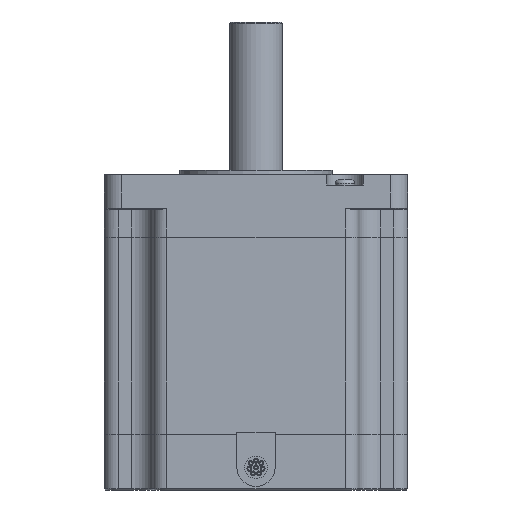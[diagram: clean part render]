
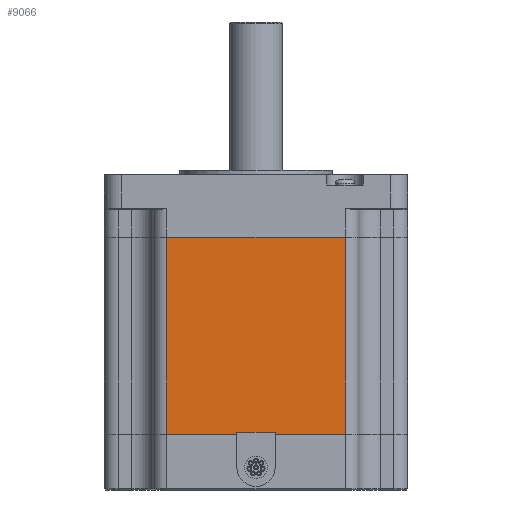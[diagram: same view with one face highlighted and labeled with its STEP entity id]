
A CAD part, front view. The second image highlights one B-rep face of the part: STEP entity #9066.
In plain terms, the highlighted planar face has unit normal (0, -1, 0).
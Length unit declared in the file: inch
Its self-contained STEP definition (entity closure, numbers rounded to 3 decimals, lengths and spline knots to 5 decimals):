
#561 = VERTEX_POINT ( 'NONE', #1770 ) ;
#565 = EDGE_CURVE ( 'NONE', #561, #587, #1817, .T. ) ;
#587 = VERTEX_POINT ( 'NONE', #1842 ) ;
#1770 = CARTESIAN_POINT ( 'NONE',  ( 1.2775, -2.1765, -0.9 ) ) ;
#1814 = DIRECTION ( 'NONE',  ( -1., 0., 0. ) ) ;
#1815 = VECTOR ( 'NONE', #1814, 39.37008 ) ;
#1816 = CARTESIAN_POINT ( 'NONE',  ( 1.2775, -2.1765, -0.9 ) ) ;
#1817 = LINE ( 'NONE', #1816, #1815 ) ;
#1842 = CARTESIAN_POINT ( 'NONE',  ( -1.2775, -2.1765, -0.9 ) ) ;
#9017 = EDGE_LOOP ( 'NONE', ( #9029, #9047, #9073, #9062 ) ) ;
#9018 = VERTEX_POINT ( 'NONE', #13118 ) ;
#9026 = EDGE_CURVE ( 'NONE', #9018, #9081, #13134, .T. ) ;
#9029 = ORIENTED_EDGE ( 'NONE', *, *, #565, .T. ) ;
#9040 = EDGE_CURVE ( 'NONE', #9018, #561, #13194, .T. ) ;
#9047 = ORIENTED_EDGE ( 'NONE', *, *, #9063, .F. ) ;
#9062 = ORIENTED_EDGE ( 'NONE', *, *, #9040, .T. ) ;
#9063 = EDGE_CURVE ( 'NONE', #9081, #587, #13259, .T. ) ;
#9066 = ADVANCED_FACE ( 'NONE', ( #13279 ), #13289, .F. ) ;
#9073 = ORIENTED_EDGE ( 'NONE', *, *, #9026, .F. ) ;
#9081 = VERTEX_POINT ( 'NONE', #13368 ) ;
#13118 = CARTESIAN_POINT ( 'NONE',  ( 1.2775, -2.1765, -3.727 ) ) ;
#13133 = CARTESIAN_POINT ( 'NONE',  ( 1.2775, -2.1765, -3.727 ) ) ;
#13134 = LINE ( 'NONE', #13133, #13160 ) ;
#13159 = DIRECTION ( 'NONE',  ( -1., 0., 0. ) ) ;
#13160 = VECTOR ( 'NONE', #13159, 39.37008 ) ;
#13191 = DIRECTION ( 'NONE',  ( 0., 0., 1. ) ) ;
#13192 = VECTOR ( 'NONE', #13191, 39.37008 ) ;
#13193 = CARTESIAN_POINT ( 'NONE',  ( 1.2775, -2.1765, -3.727 ) ) ;
#13194 = LINE ( 'NONE', #13193, #13192 ) ;
#13248 = VECTOR ( 'NONE', #13252, 39.37008 ) ;
#13252 = DIRECTION ( 'NONE',  ( 0., 0., 1. ) ) ;
#13253 = CARTESIAN_POINT ( 'NONE',  ( -1.2775, -2.1765, -3.727 ) ) ;
#13259 = LINE ( 'NONE', #13253, #13248 ) ;
#13275 = AXIS2_PLACEMENT_3D ( 'NONE', #13312, #13311, #13310 ) ;
#13279 = FACE_OUTER_BOUND ( 'NONE', #9017, .T. ) ;
#13289 = PLANE ( 'NONE',  #13275 ) ;
#13310 = DIRECTION ( 'NONE',  ( -1., 0., 0. ) ) ;
#13311 = DIRECTION ( 'NONE',  ( 0., 1., 0. ) ) ;
#13312 = CARTESIAN_POINT ( 'NONE',  ( 1.2775, -2.1765, -3.727 ) ) ;
#13368 = CARTESIAN_POINT ( 'NONE',  ( -1.2775, -2.1765, -3.727 ) ) ;
